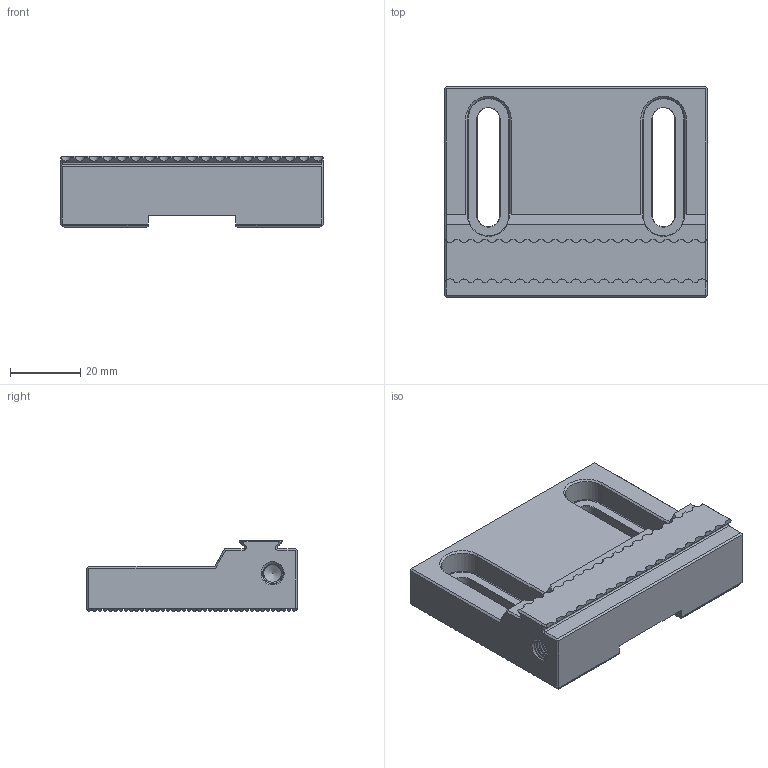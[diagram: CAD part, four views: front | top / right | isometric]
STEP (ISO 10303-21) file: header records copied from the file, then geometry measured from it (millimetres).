
FILE_DESCRIPTION(/* description */ (''),/* implementation_level */ '2;1');
FILE_NAME(/* name */ 'YZ-75.stp',/* time_stamp */ '2023-02-09T14:43:13+08:00',/* author */ (''),/* organization */ (''),/* preprocessor_version */ 'ST-DEVELOPER v18.102',/* originating_system */ 'SIEMENS PLM Software NX 2027',/* authorisation */ '');
FILE_SCHEMA (('AP203_CONFIGURATION_CONTROLLED_3D_DESIGN_OF_MECHANICAL_PARTS_AND_ASSEMBLIES_MIM_LF { 1 0 10303 403 2 1 2}'));
Length unit declared in the file: millimetre
Products named in the file (1): 05-0165_objects
Bounding box: 75 x 60 x 20.5 mm (x, y, z)
Volume: 52578.4 mm3; surface area: 17638.5 mm2
Topology: 1 solids, 3 shells, 665 faces, 1953 edges, 1290 vertices
Faces by surface type: plane 563, cylinder 78, cone 16, bspline 4, torus 4
Full cylindrical faces by diameter (mm): 5.1 x22
Entity records: 31147 total; most frequent: CARTESIAN_POINT 10386, ORIENTED_EDGE 3736, DIRECTION 3328, EDGE_CURVE 1868, LINE 1658, VECTOR 1658, VERTEX_POINT 1239, AXIS2_PLACEMENT_3D 835
